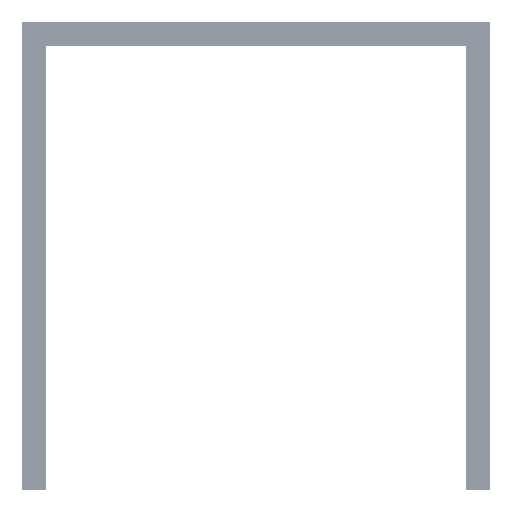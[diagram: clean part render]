
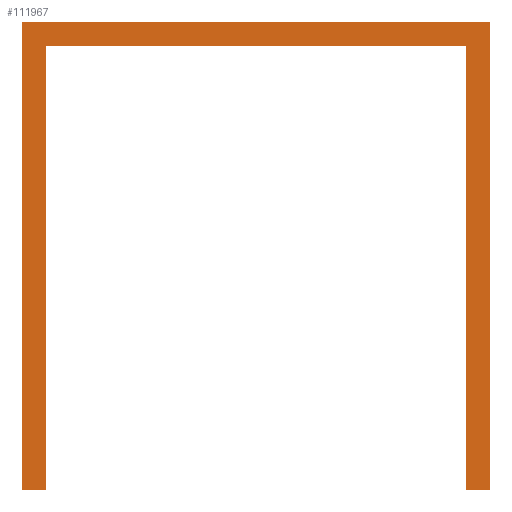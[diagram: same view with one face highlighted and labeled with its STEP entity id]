
A CAD part, front view. The second image highlights one B-rep face of the part: STEP entity #111967.
In plain terms, the highlighted planar face has unit normal (0, -1, 0).
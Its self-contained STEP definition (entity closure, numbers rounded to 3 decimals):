
#499 = CARTESIAN_POINT ( 'NONE',  ( -24., 0., -45.5 ) ) ;
#2460 = VERTEX_POINT ( 'NONE', #119965 ) ;
#2799 = ORIENTED_EDGE ( 'NONE', *, *, #143733, .F. ) ;
#4011 = DIRECTION ( 'NONE',  ( -1., 0., 0. ) ) ;
#4296 = EDGE_CURVE ( 'NONE', #42538, #28882, #61234, .T. ) ;
#8410 = ORIENTED_EDGE ( 'NONE', *, *, #92312, .F. ) ;
#8849 = VERTEX_POINT ( 'NONE', #74465 ) ;
#9391 = DIRECTION ( 'NONE',  ( -1., 0., 0. ) ) ;
#19314 = CARTESIAN_POINT ( 'NONE',  ( 21.5, 0., -45.5 ) ) ;
#21659 = LINE ( 'NONE', #95140, #101763 ) ;
#22614 = LINE ( 'NONE', #112464, #123207 ) ;
#23026 = EDGE_LOOP ( 'NONE', ( #90982, #35682, #109195, #127576, #91798, #32052, #8410, #2799 ) ) ;
#23805 = DIRECTION ( 'NONE',  ( 0., 0., 1. ) ) ;
#27361 = DIRECTION ( 'NONE',  ( 0., 0., -1. ) ) ;
#27884 = CARTESIAN_POINT ( 'NONE',  ( 24., 0., -45.5 ) ) ;
#28544 = LINE ( 'NONE', #52767, #43519 ) ;
#28882 = VERTEX_POINT ( 'NONE', #58923 ) ;
#32052 = ORIENTED_EDGE ( 'NONE', *, *, #35179, .F. ) ;
#35040 = VECTOR ( 'NONE', #75697, 1000. ) ;
#35179 = EDGE_CURVE ( 'NONE', #39712, #42538, #76500, .T. ) ;
#35682 = ORIENTED_EDGE ( 'NONE', *, *, #39005, .F. ) ;
#39005 = EDGE_CURVE ( 'NONE', #2460, #53985, #75326, .T. ) ;
#39712 = VERTEX_POINT ( 'NONE', #40777 ) ;
#40777 = CARTESIAN_POINT ( 'NONE',  ( -21.5, 0., -45.5 ) ) ;
#40833 = CARTESIAN_POINT ( 'NONE',  ( -24., 0., -45.5 ) ) ;
#42538 = VERTEX_POINT ( 'NONE', #499 ) ;
#43519 = VECTOR ( 'NONE', #74650, 1000. ) ;
#48754 = EDGE_CURVE ( 'NONE', #28882, #8849, #22614, .T. ) ;
#50849 = CARTESIAN_POINT ( 'NONE',  ( 21.5, 0., -45.5 ) ) ;
#52767 = CARTESIAN_POINT ( 'NONE',  ( -21.5, 0., 0. ) ) ;
#53985 = VERTEX_POINT ( 'NONE', #19314 ) ;
#57807 = LINE ( 'NONE', #85862, #154665 ) ;
#58923 = CARTESIAN_POINT ( 'NONE',  ( -24., 0., 2.5 ) ) ;
#61234 = LINE ( 'NONE', #40833, #35040 ) ;
#62199 = AXIS2_PLACEMENT_3D ( 'NONE', #119951, #131459, #84046 ) ;
#74465 = CARTESIAN_POINT ( 'NONE',  ( 24., 0., 2.5 ) ) ;
#74650 = DIRECTION ( 'NONE',  ( 0., 0., -1. ) ) ;
#75326 = LINE ( 'NONE', #50849, #84612 ) ;
#75697 = DIRECTION ( 'NONE',  ( 0., 0., 1. ) ) ;
#76500 = LINE ( 'NONE', #105217, #84009 ) ;
#80916 = EDGE_CURVE ( 'NONE', #8849, #2460, #120967, .T. ) ;
#83904 = VERTEX_POINT ( 'NONE', #106428 ) ;
#84009 = VECTOR ( 'NONE', #9391, 1000. ) ;
#84046 = DIRECTION ( 'NONE',  ( 0., 0., -1. ) ) ;
#84612 = VECTOR ( 'NONE', #134165, 1000. ) ;
#85862 = CARTESIAN_POINT ( 'NONE',  ( -21.5, 0., 0. ) ) ;
#90982 = ORIENTED_EDGE ( 'NONE', *, *, #146471, .F. ) ;
#91798 = ORIENTED_EDGE ( 'NONE', *, *, #4296, .F. ) ;
#92312 = EDGE_CURVE ( 'NONE', #96207, #39712, #28544, .T. ) ;
#95140 = CARTESIAN_POINT ( 'NONE',  ( 21.5, 0., 0. ) ) ;
#96207 = VERTEX_POINT ( 'NONE', #124397 ) ;
#101763 = VECTOR ( 'NONE', #23805, 1000. ) ;
#105217 = CARTESIAN_POINT ( 'NONE',  ( -21.5, 0., -45.5 ) ) ;
#106428 = CARTESIAN_POINT ( 'NONE',  ( 21.5, 0., 0. ) ) ;
#109195 = ORIENTED_EDGE ( 'NONE', *, *, #80916, .F. ) ;
#110920 = DIRECTION ( 'NONE',  ( 1., 0., 0. ) ) ;
#111967 = ADVANCED_FACE ( 'NONE', ( #152367 ), #142943, .T. ) ;
#112464 = CARTESIAN_POINT ( 'NONE',  ( 24., 0., 2.5 ) ) ;
#117218 = VECTOR ( 'NONE', #27361, 1000. ) ;
#119951 = CARTESIAN_POINT ( 'NONE',  ( 0., 0., 0. ) ) ;
#119965 = CARTESIAN_POINT ( 'NONE',  ( 24., 0., -45.5 ) ) ;
#120967 = LINE ( 'NONE', #27884, #117218 ) ;
#123207 = VECTOR ( 'NONE', #110920, 1000. ) ;
#124397 = CARTESIAN_POINT ( 'NONE',  ( -21.5, 0., 0. ) ) ;
#127576 = ORIENTED_EDGE ( 'NONE', *, *, #48754, .F. ) ;
#131459 = DIRECTION ( 'NONE',  ( 0., -1., 0. ) ) ;
#134165 = DIRECTION ( 'NONE',  ( -1., 0., 0. ) ) ;
#142943 = PLANE ( 'NONE',  #62199 ) ;
#143733 = EDGE_CURVE ( 'NONE', #83904, #96207, #57807, .T. ) ;
#146471 = EDGE_CURVE ( 'NONE', #53985, #83904, #21659, .T. ) ;
#152367 = FACE_OUTER_BOUND ( 'NONE', #23026, .T. ) ;
#154665 = VECTOR ( 'NONE', #4011, 1000. ) ;
